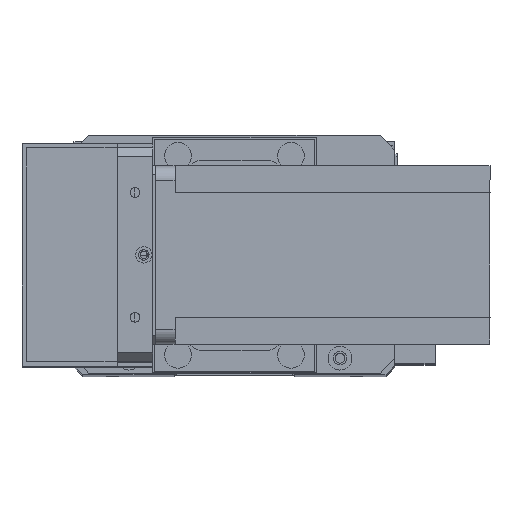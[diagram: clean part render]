
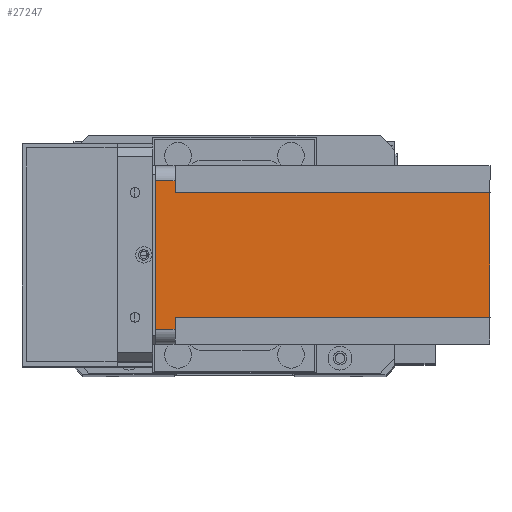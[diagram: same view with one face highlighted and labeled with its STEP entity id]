
A CAD part, top view. The second image highlights one B-rep face of the part: STEP entity #27247.
In plain terms, the highlighted planar face has unit normal (0, 0, 1) as drawn and (1, 0, 0) by its records, which use the part's own axes.
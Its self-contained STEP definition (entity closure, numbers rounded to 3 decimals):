
#983 = EDGE_CURVE ( 'NONE', #15201, #3783, #18591, .T. ) ;
#1687 = CARTESIAN_POINT ( 'NONE',  ( 60., 9., -112.5 ) ) ;
#1943 = CARTESIAN_POINT ( 'NONE',  ( 60., 51., -6.5 ) ) ;
#3783 = VERTEX_POINT ( 'NONE', #28966 ) ;
#4110 = ORIENTED_EDGE ( 'NONE', *, *, #14850, .T. ) ;
#4620 = LINE ( 'NONE', #7076, #17102 ) ;
#4657 = ORIENTED_EDGE ( 'NONE', *, *, #8894, .F. ) ;
#5139 = ORIENTED_EDGE ( 'NONE', *, *, #983, .F. ) ;
#5257 = ORIENTED_EDGE ( 'NONE', *, *, #18526, .T. ) ;
#6334 = VERTEX_POINT ( 'NONE', #1943 ) ;
#7076 = CARTESIAN_POINT ( 'NONE',  ( 60., 55., -112.5 ) ) ;
#7485 = AXIS2_PLACEMENT_3D ( 'NONE', #11333, #27695, #13707 ) ;
#7837 = LINE ( 'NONE', #27690, #18171 ) ;
#8688 = VECTOR ( 'NONE', #25063, 1000. ) ;
#8894 = EDGE_CURVE ( 'NONE', #27011, #6334, #7837, .T. ) ;
#8946 = DIRECTION ( 'NONE',  ( 0., -1., 0. ) ) ;
#9176 = EDGE_CURVE ( 'NONE', #20904, #26478, #22519, .T. ) ;
#9807 = DIRECTION ( 'NONE',  ( 0., 1., 0. ) ) ;
#10035 = VECTOR ( 'NONE', #17165, 1000. ) ;
#10112 = VECTOR ( 'NONE', #14873, 1000. ) ;
#11083 = CARTESIAN_POINT ( 'NONE',  ( 60., 5., -112.5 ) ) ;
#11333 = CARTESIAN_POINT ( 'NONE',  ( 60., 0., -112.5 ) ) ;
#11704 = VECTOR ( 'NONE', #17765, 1000. ) ;
#13025 = CARTESIAN_POINT ( 'NONE',  ( 60., 51., -112.5 ) ) ;
#13707 = DIRECTION ( 'NONE',  ( 0., 1., 0. ) ) ;
#13842 = CARTESIAN_POINT ( 'NONE',  ( 60., 5., 0. ) ) ;
#14376 = VECTOR ( 'NONE', #9807, 1000. ) ;
#14807 = CARTESIAN_POINT ( 'NONE',  ( 60., 0., 0. ) ) ;
#14850 = EDGE_CURVE ( 'NONE', #27011, #26478, #4620, .T. ) ;
#14873 = DIRECTION ( 'NONE',  ( 0., -1., 0. ) ) ;
#14960 = ORIENTED_EDGE ( 'NONE', *, *, #20774, .T. ) ;
#15091 = CARTESIAN_POINT ( 'NONE',  ( 60., 0., -6.5 ) ) ;
#15201 = VERTEX_POINT ( 'NONE', #26746 ) ;
#15257 = CARTESIAN_POINT ( 'NONE',  ( 60., 55., -6.5 ) ) ;
#17102 = VECTOR ( 'NONE', #23525, 1000. ) ;
#17165 = DIRECTION ( 'NONE',  ( 0., 1., 0. ) ) ;
#17765 = DIRECTION ( 'NONE',  ( 0., 0., -1. ) ) ;
#17978 = LINE ( 'NONE', #13025, #11704 ) ;
#18171 = VECTOR ( 'NONE', #8946, 1000. ) ;
#18526 = EDGE_CURVE ( 'NONE', #29901, #21019, #28271, .T. ) ;
#18591 = LINE ( 'NONE', #15091, #10112 ) ;
#19196 = CARTESIAN_POINT ( 'NONE',  ( 60., 0., -112.5 ) ) ;
#19726 = EDGE_CURVE ( 'NONE', #6334, #21019, #17978, .T. ) ;
#20049 = DIRECTION ( 'NONE',  ( 0., 0., 1. ) ) ;
#20774 = EDGE_CURVE ( 'NONE', #20904, #3783, #26646, .T. ) ;
#20904 = VERTEX_POINT ( 'NONE', #13842 ) ;
#21019 = VERTEX_POINT ( 'NONE', #23666 ) ;
#22519 = LINE ( 'NONE', #14807, #10035 ) ;
#22543 = CARTESIAN_POINT ( 'NONE',  ( 60., 55., 0. ) ) ;
#22904 = ORIENTED_EDGE ( 'NONE', *, *, #19726, .F. ) ;
#23277 = LINE ( 'NONE', #29426, #24703 ) ;
#23525 = DIRECTION ( 'NONE',  ( 0., 0., 1. ) ) ;
#23666 = CARTESIAN_POINT ( 'NONE',  ( 60., 51., -112.5 ) ) ;
#23903 = ORIENTED_EDGE ( 'NONE', *, *, #9176, .F. ) ;
#24703 = VECTOR ( 'NONE', #20049, 1000. ) ;
#25063 = DIRECTION ( 'NONE',  ( 0., 0., -1. ) ) ;
#25960 = ORIENTED_EDGE ( 'NONE', *, *, #29832, .F. ) ;
#26217 = FACE_OUTER_BOUND ( 'NONE', #27741, .T. ) ;
#26478 = VERTEX_POINT ( 'NONE', #22543 ) ;
#26646 = LINE ( 'NONE', #11083, #8688 ) ;
#26746 = CARTESIAN_POINT ( 'NONE',  ( 60., 9., -6.5 ) ) ;
#27011 = VERTEX_POINT ( 'NONE', #15257 ) ;
#27247 = ADVANCED_FACE ( 'NONE', ( #26217 ), #27606, .T. ) ;
#27606 = PLANE ( 'NONE',  #7485 ) ;
#27690 = CARTESIAN_POINT ( 'NONE',  ( 60., 60., -6.5 ) ) ;
#27695 = DIRECTION ( 'NONE',  ( 1., 0., 0. ) ) ;
#27741 = EDGE_LOOP ( 'NONE', ( #4657, #4110, #23903, #14960, #5139, #25960, #5257, #22904 ) ) ;
#28271 = LINE ( 'NONE', #19196, #14376 ) ;
#28966 = CARTESIAN_POINT ( 'NONE',  ( 60., 5., -6.5 ) ) ;
#29426 = CARTESIAN_POINT ( 'NONE',  ( 60., 9., -112.5 ) ) ;
#29832 = EDGE_CURVE ( 'NONE', #29901, #15201, #23277, .T. ) ;
#29901 = VERTEX_POINT ( 'NONE', #1687 ) ;
